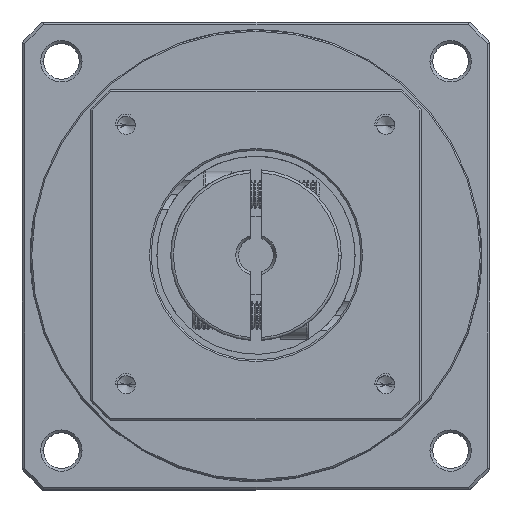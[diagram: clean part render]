
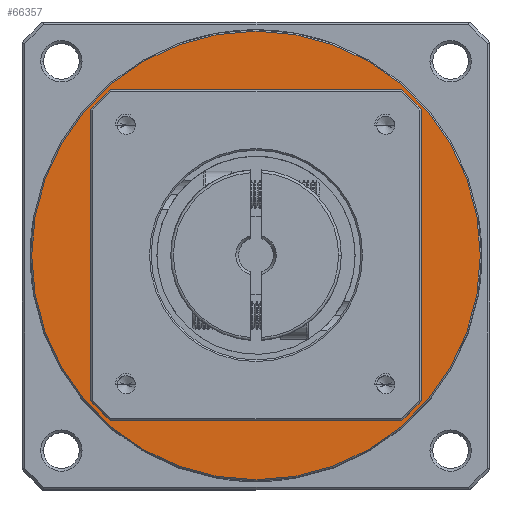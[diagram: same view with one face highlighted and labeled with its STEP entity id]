
A CAD part, top view. The second image highlights one B-rep face of the part: STEP entity #66357.
In plain terms, the highlighted planar face has unit normal (0, 0, 1).
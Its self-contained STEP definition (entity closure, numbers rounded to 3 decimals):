
#1909 = DIRECTION ( 'NONE',  ( 0., 0., 1. ) ) ;
#3493 = VERTEX_POINT ( 'NONE', #105873 ) ;
#5591 = CARTESIAN_POINT ( 'NONE',  ( -35.588, -4.071, 157.15 ) ) ;
#12364 = EDGE_CURVE ( 'NONE', #49441, #86879, #35806, .T. ) ;
#13773 = CIRCLE ( 'NONE', #69283, 30. ) ;
#15204 = DIRECTION ( 'NONE',  ( 0., 0., 1. ) ) ;
#16319 = FACE_BOUND ( 'NONE', #60375, .T. ) ;
#17245 = ORIENTED_EDGE ( 'NONE', *, *, #58865, .T. ) ;
#21322 = ORIENTED_EDGE ( 'NONE', *, *, #12364, .F. ) ;
#21434 = DIRECTION ( 'NONE',  ( 0., 0., 1. ) ) ;
#24583 = CARTESIAN_POINT ( 'NONE',  ( 5.162, -4.071, 157.15 ) ) ;
#24714 = EDGE_LOOP ( 'NONE', ( #17245, #53044 ) ) ;
#26303 = AXIS2_PLACEMENT_3D ( 'NONE', #67775, #1909, #107231 ) ;
#35806 = CIRCLE ( 'NONE', #102511, 30. ) ;
#39471 = DIRECTION ( 'NONE',  ( 1., 0., 0. ) ) ;
#40294 = CARTESIAN_POINT ( 'NONE',  ( -35.588, -4.071, 157.15 ) ) ;
#40369 = ORIENTED_EDGE ( 'NONE', *, *, #68397, .F. ) ;
#43500 = PLANE ( 'NONE',  #89109 ) ;
#48963 = EDGE_CURVE ( 'NONE', #82557, #3493, #124570, .T. ) ;
#49441 = VERTEX_POINT ( 'NONE', #106995 ) ;
#53044 = ORIENTED_EDGE ( 'NONE', *, *, #48963, .T. ) ;
#55305 = DIRECTION ( 'NONE',  ( 1., 0., 0. ) ) ;
#58865 = EDGE_CURVE ( 'NONE', #3493, #82557, #76487, .T. ) ;
#60375 = EDGE_LOOP ( 'NONE', ( #21322, #40369 ) ) ;
#64097 = CARTESIAN_POINT ( 'NONE',  ( -5.588, -4.071, 157.15 ) ) ;
#66357 = ADVANCED_FACE ( 'NONE', ( #16319, #122870 ), #43500, .T. ) ;
#67775 = CARTESIAN_POINT ( 'NONE',  ( -35.588, -4.071, 157.15 ) ) ;
#68397 = EDGE_CURVE ( 'NONE', #86879, #49441, #13773, .T. ) ;
#69283 = AXIS2_PLACEMENT_3D ( 'NONE', #5591, #15204, #83605 ) ;
#74632 = DIRECTION ( 'NONE',  ( 0., 0., 1. ) ) ;
#76487 = CIRCLE ( 'NONE', #26303, 40.75 ) ;
#82557 = VERTEX_POINT ( 'NONE', #24583 ) ;
#83605 = DIRECTION ( 'NONE',  ( 1., 0., 0. ) ) ;
#86879 = VERTEX_POINT ( 'NONE', #64097 ) ;
#87372 = DIRECTION ( 'NONE',  ( 1., 0., 0. ) ) ;
#88166 = AXIS2_PLACEMENT_3D ( 'NONE', #117661, #88646, #39471 ) ;
#88646 = DIRECTION ( 'NONE',  ( 0., 0., 1. ) ) ;
#89109 = AXIS2_PLACEMENT_3D ( 'NONE', #113639, #74632, #55305 ) ;
#102511 = AXIS2_PLACEMENT_3D ( 'NONE', #40294, #21434, #87372 ) ;
#105873 = CARTESIAN_POINT ( 'NONE',  ( -76.338, -4.071, 157.15 ) ) ;
#106995 = CARTESIAN_POINT ( 'NONE',  ( -65.588, -4.071, 157.15 ) ) ;
#107231 = DIRECTION ( 'NONE',  ( 1., 0., 0. ) ) ;
#113639 = CARTESIAN_POINT ( 'NONE',  ( -35.588, -4.071, 157.15 ) ) ;
#117661 = CARTESIAN_POINT ( 'NONE',  ( -35.588, -4.071, 157.15 ) ) ;
#122870 = FACE_OUTER_BOUND ( 'NONE', #24714, .T. ) ;
#124570 = CIRCLE ( 'NONE', #88166, 40.75 ) ;
